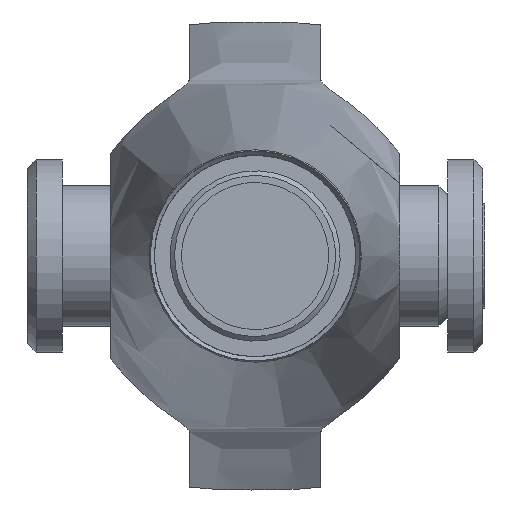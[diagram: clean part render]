
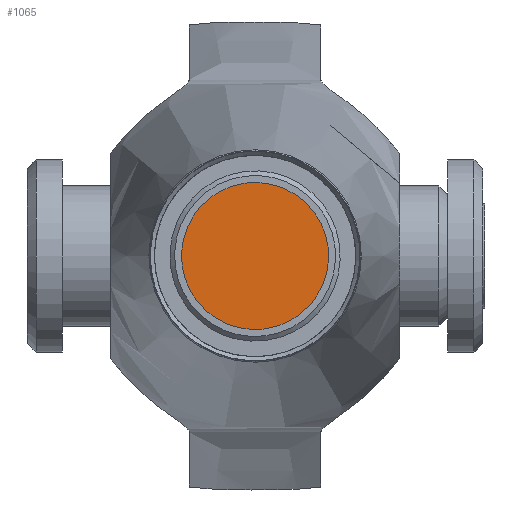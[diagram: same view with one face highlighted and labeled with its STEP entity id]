
A CAD part, left-side view. The second image highlights one B-rep face of the part: STEP entity #1065.
In plain terms, the highlighted planar face has unit normal (-1, 0, 0).
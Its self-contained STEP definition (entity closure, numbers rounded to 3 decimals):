
#77=PLANE('',#1163);
#109=FACE_OUTER_BOUND('',#173,.T.);
#173=EDGE_LOOP('',(#704,#705));
#361=CIRCLE('',#1161,8.4);
#362=CIRCLE('',#1162,8.4);
#431=VERTEX_POINT('',#1631);
#432=VERTEX_POINT('',#1633);
#540=EDGE_CURVE('',#432,#431,#361,.T.);
#541=EDGE_CURVE('',#431,#432,#362,.T.);
#704=ORIENTED_EDGE('',*,*,#540,.T.);
#705=ORIENTED_EDGE('',*,*,#541,.T.);
#1065=ADVANCED_FACE('',(#109),#77,.T.);
#1161=AXIS2_PLACEMENT_3D('',#1634,#1314,#1315);
#1162=AXIS2_PLACEMENT_3D('',#1635,#1316,#1317);
#1163=AXIS2_PLACEMENT_3D('',#1636,#1318,#1319);
#1314=DIRECTION('center_axis',(-1.,0.,0.));
#1315=DIRECTION('ref_axis',(0.,-0.293,-0.956));
#1316=DIRECTION('center_axis',(-1.,0.,0.));
#1317=DIRECTION('ref_axis',(0.,-0.293,-0.956));
#1318=DIRECTION('center_axis',(-1.,0.,0.));
#1319=DIRECTION('ref_axis',(0.,-0.293,-0.956));
#1631=CARTESIAN_POINT('',(-180.5,-8.032,2.46));
#1633=CARTESIAN_POINT('',(-180.5,8.032,-2.46));
#1634=CARTESIAN_POINT('Origin',(-180.5,0.,0.));
#1635=CARTESIAN_POINT('Origin',(-180.5,0.,0.));
#1636=CARTESIAN_POINT('Origin',(-180.5,0.,0.));
